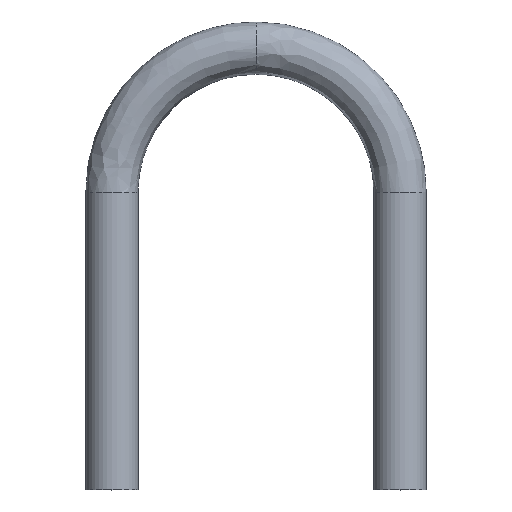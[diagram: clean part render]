
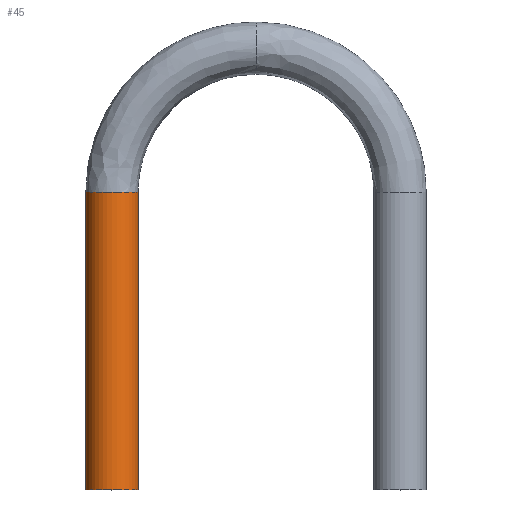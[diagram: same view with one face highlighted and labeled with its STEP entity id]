
A CAD part, top view. The second image highlights one B-rep face of the part: STEP entity #45.
In plain terms, the highlighted cylindrical face has radius 4.763 mm (diameter 9.525 mm), a partial arc.
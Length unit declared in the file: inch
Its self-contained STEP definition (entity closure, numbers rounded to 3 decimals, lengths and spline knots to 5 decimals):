
#45=ADVANCED_FACE('',(#88),#89,.T.);
#88=FACE_OUTER_BOUND('',#256,.T.);
#89=CYLINDRICAL_SURFACE('',#257,0.1875);
#256=EDGE_LOOP('',(#435,#436,#437,#438));
#257=AXIS2_PLACEMENT_3D('',#439,#440,#441);
#435=ORIENTED_EDGE('',*,*,#485,.F.);
#436=ORIENTED_EDGE('',*,*,#486,.T.);
#437=ORIENTED_EDGE('',*,*,#487,.F.);
#438=ORIENTED_EDGE('',*,*,#483,.T.);
#439=CARTESIAN_POINT('',(0.,0.,0.1875));
#440=DIRECTION('',(-0.0,-1.0,-0.0));
#441=DIRECTION('',(-1.0,0.0,0.0));
#483=EDGE_CURVE('',#516,#518,#520,.T.);
#485=EDGE_CURVE('',#522,#518,#523,.T.);
#486=EDGE_CURVE('',#522,#524,#525,.T.);
#487=EDGE_CURVE('',#516,#524,#526,.T.);
#516=VERTEX_POINT('',#567);
#518=VERTEX_POINT('',#574);
#520=CIRCLE('',#581,0.1875);
#522=VERTEX_POINT('',#583);
#523=LINE('',#584,#585);
#524=VERTEX_POINT('',#586);
#525=CIRCLE('',#587,0.1875);
#526=LINE('',#588,#589);
#567=CARTESIAN_POINT('',(0.1875,2.131,0.1875));
#574=CARTESIAN_POINT('',(-0.1875,2.131,0.1875));
#581=AXIS2_PLACEMENT_3D('',#615,#616,#617);
#583=CARTESIAN_POINT('',(-0.1875,0.,0.1875));
#584=CARTESIAN_POINT('',(-0.1875,0.,0.1875));
#585=VECTOR('',#618,1.0);
#586=CARTESIAN_POINT('',(0.1875,0.,0.1875));
#587=AXIS2_PLACEMENT_3D('',#619,#620,#621);
#588=CARTESIAN_POINT('',(0.1875,0.,0.1875));
#589=VECTOR('',#622,1.0);
#615=CARTESIAN_POINT('',(0.,2.131,0.1875));
#616=DIRECTION('',(-0.0,-1.0,-0.0));
#617=DIRECTION('',(-1.0,0.0,0.0));
#618=DIRECTION('',(0.0,1.0,0.0));
#619=CARTESIAN_POINT('',(0.,0.,0.1875));
#620=DIRECTION('',(0.0,1.0,0.0));
#621=DIRECTION('',(-1.0,0.0,0.0));
#622=DIRECTION('',(-0.0,-1.0,-0.0));
